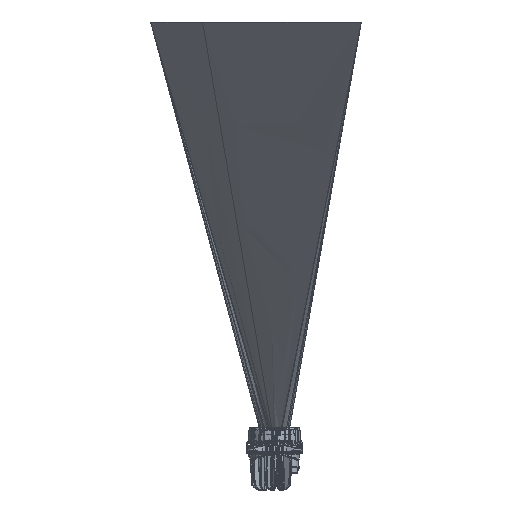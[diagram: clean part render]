
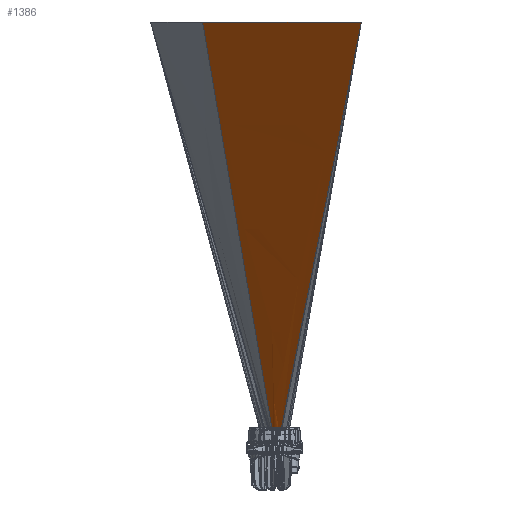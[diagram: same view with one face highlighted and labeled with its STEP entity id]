
A CAD part, left-side view. The second image highlights one B-rep face of the part: STEP entity #1386.
In plain terms, the highlighted free-form (B-spline) face has degree [5, 1] with [12, 2] control points.
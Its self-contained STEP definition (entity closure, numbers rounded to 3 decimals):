
#1295=CARTESIAN_POINT('Vertex',(-521.578,-105.042,497.453)) ;
#1299=CARTESIAN_POINT('Control Point',(-19.321,-6.449,-3.024)) ;
#1300=CARTESIAN_POINT('Control Point',(-521.578,-105.042,497.453)) ;
#1301=CARTESIAN_POINT('Vertex',(-19.321,-6.449,-3.024)) ;
#1320=CARTESIAN_POINT('Control Point',(-20.671,1.778,-3.076)) ;
#1321=CARTESIAN_POINT('Control Point',(-521.578,87.088,497.453)) ;
#1322=CARTESIAN_POINT('Control Point',(-20.698,1.69,-3.078)) ;
#1323=CARTESIAN_POINT('Control Point',(-521.578,85.02,497.453)) ;
#1324=CARTESIAN_POINT('Control Point',(-20.723,1.601,-3.078)) ;
#1325=CARTESIAN_POINT('Control Point',(-521.578,82.952,497.453)) ;
#1326=CARTESIAN_POINT('Control Point',(-20.739,1.547,-3.08)) ;
#1327=CARTESIAN_POINT('Control Point',(-521.578,81.684,497.453)) ;
#1328=CARTESIAN_POINT('Control Point',(-20.846,1.136,-3.087)) ;
#1329=CARTESIAN_POINT('Control Point',(-521.578,72.17,497.453)) ;
#1330=CARTESIAN_POINT('Control Point',(-20.926,0.718,-3.092)) ;
#1331=CARTESIAN_POINT('Control Point',(-521.578,62.655,497.453)) ;
#1332=CARTESIAN_POINT('Control Point',(-20.973,0.388,-3.095)) ;
#1333=CARTESIAN_POINT('Control Point',(-521.578,55.207,497.453)) ;
#1334=CARTESIAN_POINT('Control Point',(-21.121,-1.234,-3.105)) ;
#1335=CARTESIAN_POINT('Control Point',(-521.578,18.771,497.453)) ;
#1336=CARTESIAN_POINT('Control Point',(-20.892,-2.872,-3.092)) ;
#1337=CARTESIAN_POINT('Control Point',(-521.578,-17.666,497.453)) ;
#1338=CARTESIAN_POINT('Control Point',(-20.508,-4.146,-3.076)) ;
#1339=CARTESIAN_POINT('Control Point',(-521.578,-47.063,497.453)) ;
#1340=CARTESIAN_POINT('Control Point',(-19.964,-5.326,-3.046)) ;
#1341=CARTESIAN_POINT('Control Point',(-521.578,-76.052,497.453)) ;
#1342=CARTESIAN_POINT('Control Point',(-19.321,-6.449,-3.024)) ;
#1343=CARTESIAN_POINT('Control Point',(-521.578,-105.042,497.453)) ;
#1345=CARTESIAN_POINT('Control Point',(-521.578,87.088,497.453)) ;
#1346=CARTESIAN_POINT('Control Point',(-521.578,85.02,497.453)) ;
#1347=CARTESIAN_POINT('Control Point',(-521.578,82.952,497.453)) ;
#1348=CARTESIAN_POINT('Control Point',(-521.578,81.684,497.453)) ;
#1349=CARTESIAN_POINT('Control Point',(-521.578,72.17,497.453)) ;
#1350=CARTESIAN_POINT('Control Point',(-521.578,62.655,497.453)) ;
#1351=CARTESIAN_POINT('Control Point',(-521.578,55.207,497.453)) ;
#1352=CARTESIAN_POINT('Control Point',(-521.578,18.771,497.453)) ;
#1353=CARTESIAN_POINT('Control Point',(-521.578,-17.666,497.453)) ;
#1354=CARTESIAN_POINT('Control Point',(-521.578,-47.063,497.453)) ;
#1355=CARTESIAN_POINT('Control Point',(-521.578,-76.052,497.453)) ;
#1356=CARTESIAN_POINT('Control Point',(-521.578,-105.042,497.453)) ;
#1357=CARTESIAN_POINT('Vertex',(-521.578,87.088,497.453)) ;
#1361=CARTESIAN_POINT('Control Point',(-20.671,1.778,-3.076)) ;
#1362=CARTESIAN_POINT('Control Point',(-521.578,87.088,497.453)) ;
#1363=CARTESIAN_POINT('Vertex',(-20.671,1.778,-3.076)) ;
#1367=CARTESIAN_POINT('Control Point',(-20.671,1.778,-3.076)) ;
#1368=CARTESIAN_POINT('Control Point',(-20.698,1.69,-3.078)) ;
#1369=CARTESIAN_POINT('Control Point',(-20.723,1.601,-3.078)) ;
#1370=CARTESIAN_POINT('Control Point',(-20.739,1.547,-3.08)) ;
#1371=CARTESIAN_POINT('Control Point',(-20.846,1.136,-3.087)) ;
#1372=CARTESIAN_POINT('Control Point',(-20.926,0.718,-3.092)) ;
#1373=CARTESIAN_POINT('Control Point',(-20.973,0.388,-3.095)) ;
#1374=CARTESIAN_POINT('Control Point',(-21.121,-1.234,-3.105)) ;
#1375=CARTESIAN_POINT('Control Point',(-20.892,-2.872,-3.092)) ;
#1376=CARTESIAN_POINT('Control Point',(-20.508,-4.146,-3.076)) ;
#1377=CARTESIAN_POINT('Control Point',(-19.964,-5.326,-3.046)) ;
#1378=CARTESIAN_POINT('Control Point',(-19.321,-6.449,-3.024)) ;
#1381=ORIENTED_EDGE('',*,*,#1303,.T.) ;
#1382=ORIENTED_EDGE('',*,*,#1359,.F.) ;
#1383=ORIENTED_EDGE('',*,*,#1365,.F.) ;
#1384=ORIENTED_EDGE('',*,*,#1379,.T.) ;
#1386=ADVANCED_FACE('Surface.1',(#1385),#1319,.T.) ;
#1298=B_SPLINE_CURVE_WITH_KNOTS('',1,(#1299,#1300),.UNSPECIFIED.,.F.,.U.,(2,2),(0.,520.961),.UNSPECIFIED.) ;
#1344=B_SPLINE_CURVE_WITH_KNOTS('',5,(#1345,#1346,#1347,#1348,#1349,#1350,#1351,#1352,#1353,#1354,#1355,#1356),.UNSPECIFIED.,.F.,.U.,(6,3,3,6),(0.,7.318,33.674,136.269),.UNSPECIFIED.) ;
#1360=B_SPLINE_CURVE_WITH_KNOTS('',1,(#1361,#1362),.UNSPECIFIED.,.F.,.U.,(2,2),(0.,520.961),.UNSPECIFIED.) ;
#1366=B_SPLINE_CURVE_WITH_KNOTS('',5,(#1367,#1368,#1369,#1370,#1371,#1372,#1373,#1374,#1375,#1376,#1377,#1378),.UNSPECIFIED.,.F.,.U.,(6,3,3,6),(0.,7.318,33.674,136.269),.UNSPECIFIED.) ;
#1319=B_SPLINE_SURFACE_WITH_KNOTS('',5,1,((#1320,#1321),(#1322,#1323),(#1324,#1325),(#1326,#1327),(#1328,#1329),(#1330,#1331),(#1332,#1333),(#1334,#1335),(#1336,#1337),(#1338,#1339),(#1340,#1341),(#1342,#1343)),.UNSPECIFIED.,.F.,.F.,.U.,(6,3,3,6),(2,2),(0.,7.318,33.674,136.269),(0.,520.961),.UNSPECIFIED.) ;
#1303=EDGE_CURVE('',#1302,#1296,#1298,.T.) ;
#1359=EDGE_CURVE('',#1358,#1296,#1344,.T.) ;
#1365=EDGE_CURVE('',#1364,#1358,#1360,.T.) ;
#1379=EDGE_CURVE('',#1364,#1302,#1366,.T.) ;
#1380=EDGE_LOOP('',(#1381,#1382,#1383,#1384)) ;
#1385=FACE_OUTER_BOUND('',#1380,.T.) ;
#1296=VERTEX_POINT('',#1295) ;
#1302=VERTEX_POINT('',#1301) ;
#1358=VERTEX_POINT('',#1357) ;
#1364=VERTEX_POINT('',#1363) ;
